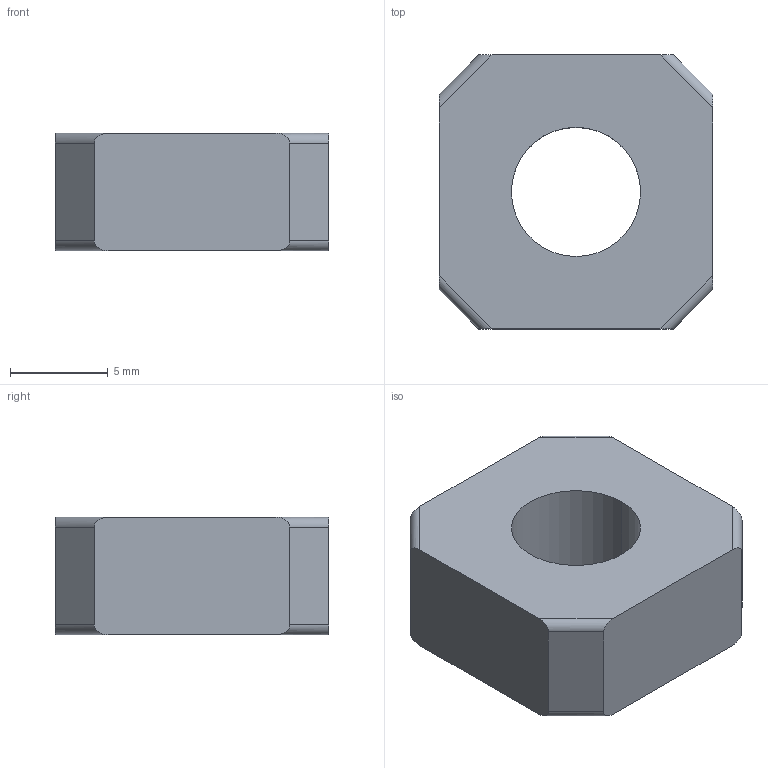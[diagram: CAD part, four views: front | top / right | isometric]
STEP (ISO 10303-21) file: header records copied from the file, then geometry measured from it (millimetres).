
FILE_DESCRIPTION (( 'STEP AP203' ), '1' );
FILE_NAME ('5275.STEP', '2016-04-16T13:30:33', ( '' ), ( '' ), 'SwSTEP 2.0', 'SolidWorks 2014', '' );
FILE_SCHEMA (( 'CONFIG_CONTROL_DESIGN' ));
Length unit declared in the file: millimetre
Products named in the file (1): 5275
Bounding box: 14 x 14 x 6 mm (x, y, z)
Volume: 921.4 mm3; surface area: 734.1 mm2
Topology: 1 solids, 1 shells, 20 faces, 54 edges, 36 vertices
Faces by surface type: cylinder 10, plane 10
Entity records: 703 total; most frequent: CARTESIAN_POINT 159, ORIENTED_EDGE 108, DIRECTION 84, EDGE_CURVE 54, VERTEX_POINT 36, VECTOR 34, LINE 34, AXIS2_PLACEMENT_3D 25
